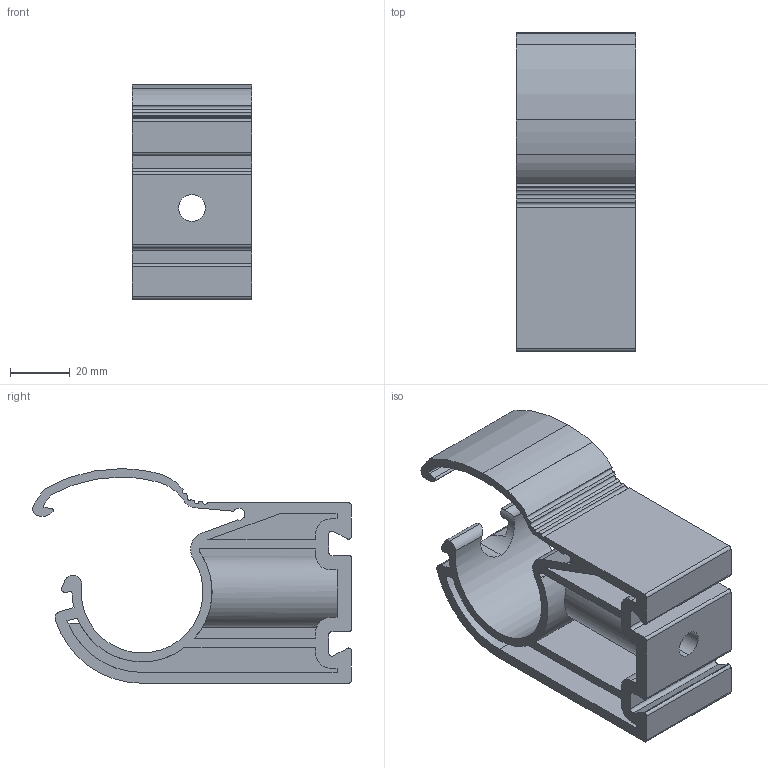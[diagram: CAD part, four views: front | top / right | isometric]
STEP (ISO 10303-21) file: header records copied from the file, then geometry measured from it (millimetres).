
FILE_DESCRIPTION (( 'STEP AP214' ), '1' );
FILE_NAME ('DIRFEM8040CF.STEP', '2017-12-19T10:43:56', ( 'utente' ), ( '' ), 'SwSTEP 2.0', 'SolidWorks 2017', '' );
FILE_SCHEMA (( 'AUTOMOTIVE_DESIGN' ));
Length unit declared in the file: millimetre
Products named in the file (1): DIRFEM8040CF
Bounding box: 40 x 106.65 x 71.77 mm (x, y, z)
Volume: 83344.8 mm3; surface area: 47225.3 mm2
Topology: 1 solids, 1 shells, 177 faces, 507 edges, 338 vertices
Faces by surface type: plane 102, cylinder 75
Entity records: 6258 total; most frequent: CARTESIAN_POINT 1520, ORIENTED_EDGE 1014, DIRECTION 963, EDGE_CURVE 507, LINE 339, VECTOR 339, VERTEX_POINT 338, AXIS2_PLACEMENT_3D 312
